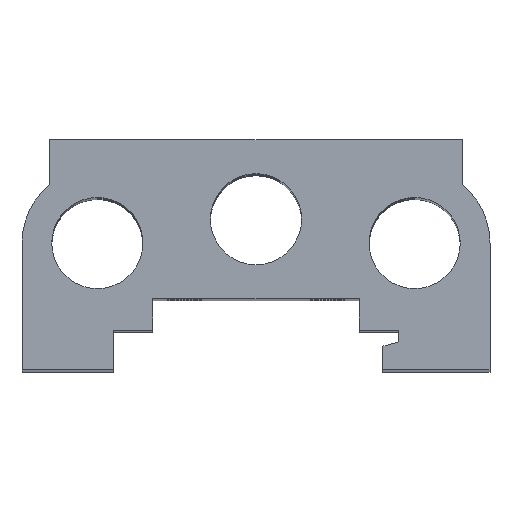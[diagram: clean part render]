
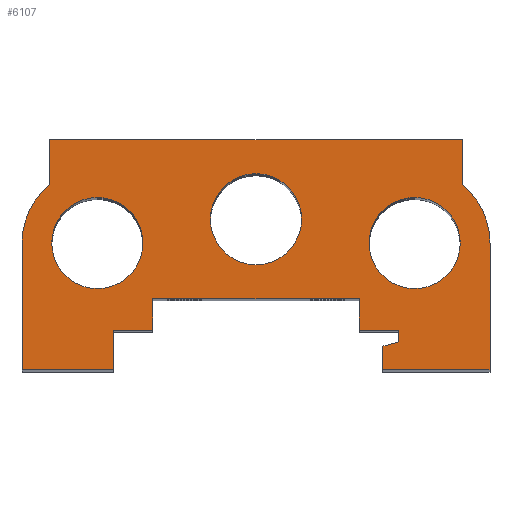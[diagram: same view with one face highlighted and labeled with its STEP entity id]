
A CAD part, top view. The second image highlights one B-rep face of the part: STEP entity #6107.
In plain terms, the highlighted planar face has unit normal (0, 0, 1).
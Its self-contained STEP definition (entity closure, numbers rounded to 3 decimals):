
#5183=CARTESIAN_POINT('',(25.75,16.0,154.0));
#5184=VERTEX_POINT('',#5183);
#5185=CARTESIAN_POINT('',(20.0,16.0,154.0));
#5186=DIRECTION('',(0.0,0.0,-1.0));
#5187=DIRECTION('',(-1.0,0.0,0.0));
#5188=AXIS2_PLACEMENT_3D('',#5185,#5186,#5187);
#5189=CIRCLE('',#5188,5.75);
#5190=EDGE_CURVE('',#5184,#5184,#5189,.T.);
#5231=CARTESIAN_POINT('',(5.75,19.0,154.0));
#5232=VERTEX_POINT('',#5231);
#5233=CARTESIAN_POINT('',(0.0,19.0,154.0));
#5234=DIRECTION('',(0.0,0.0,-1.0));
#5235=DIRECTION('',(-1.0,0.0,0.0));
#5236=AXIS2_PLACEMENT_3D('',#5233,#5234,#5235);
#5237=CIRCLE('',#5236,5.75);
#5238=EDGE_CURVE('',#5232,#5232,#5237,.T.);
#5274=CARTESIAN_POINT('',(-14.25,16.0,154.0));
#5275=VERTEX_POINT('',#5274);
#5276=CARTESIAN_POINT('',(-20.0,16.0,154.0));
#5277=DIRECTION('',(0.0,0.0,-1.0));
#5278=DIRECTION('',(-1.0,0.0,0.0));
#5279=AXIS2_PLACEMENT_3D('',#5276,#5277,#5278);
#5280=CIRCLE('',#5279,5.75);
#5281=EDGE_CURVE('',#5275,#5275,#5280,.T.);
#5322=CARTESIAN_POINT('',(-29.5,16.,154.0));
#5323=VERTEX_POINT('',#5322);
#5324=CARTESIAN_POINT('',(-26.,23.365,154.0));
#5325=VERTEX_POINT('',#5324);
#5326=CARTESIAN_POINT('',(-20.0,16.0,154.0));
#5327=DIRECTION('',(0.0,0.0,-1.0));
#5328=DIRECTION('',(-0.632,0.775,0.0));
#5329=AXIS2_PLACEMENT_3D('',#5326,#5327,#5328);
#5330=CIRCLE('',#5329,9.5);
#5331=EDGE_CURVE('',#5323,#5325,#5330,.T.);
#5364=CARTESIAN_POINT('',(-26.,29.,154.0));
#5365=VERTEX_POINT('',#5364);
#5366=CARTESIAN_POINT('',(-26.,23.365,154.0));
#5367=DIRECTION('',(0.0,1.0,0.0));
#5368=VECTOR('',#5367,5.635);
#5369=LINE('',#5366,#5368);
#5370=EDGE_CURVE('',#5325,#5365,#5369,.T.);
#5395=CARTESIAN_POINT('',(26.,29.,154.0));
#5396=VERTEX_POINT('',#5395);
#5397=CARTESIAN_POINT('',(-26.,29.,154.0));
#5398=DIRECTION('',(1.0,0.0,0.0));
#5399=VECTOR('',#5398,52.);
#5400=LINE('',#5397,#5399);
#5401=EDGE_CURVE('',#5365,#5396,#5400,.T.);
#5543=CARTESIAN_POINT('',(26.0,23.365,154.0));
#5544=VERTEX_POINT('',#5543);
#5545=CARTESIAN_POINT('',(26.,29.,154.0));
#5546=DIRECTION('',(0.0,-1.0,0.0));
#5547=VECTOR('',#5546,5.635);
#5548=LINE('',#5545,#5547);
#5549=EDGE_CURVE('',#5396,#5544,#5548,.T.);
#5574=CARTESIAN_POINT('',(29.5,16.0,154.0));
#5575=VERTEX_POINT('',#5574);
#5576=CARTESIAN_POINT('',(20.0,16.0,154.0));
#5577=DIRECTION('',(0.0,0.0,-1.0));
#5578=DIRECTION('',(1.0,0.0,0.0));
#5579=AXIS2_PLACEMENT_3D('',#5576,#5577,#5578);
#5580=CIRCLE('',#5579,9.5);
#5581=EDGE_CURVE('',#5544,#5575,#5580,.T.);
#5607=CARTESIAN_POINT('',(29.5,0.0,154.0));
#5608=VERTEX_POINT('',#5607);
#5609=CARTESIAN_POINT('',(29.5,16.0,154.0));
#5610=DIRECTION('',(0.0,-1.0,0.0));
#5611=VECTOR('',#5610,16.0);
#5612=LINE('',#5609,#5611);
#5613=EDGE_CURVE('',#5575,#5608,#5612,.T.);
#5638=CARTESIAN_POINT('',(16.,0.0,154.0));
#5639=VERTEX_POINT('',#5638);
#5640=CARTESIAN_POINT('',(29.5,0.0,154.0));
#5641=DIRECTION('',(-1.0,0.0,0.0));
#5642=VECTOR('',#5641,13.5);
#5643=LINE('',#5640,#5642);
#5644=EDGE_CURVE('',#5608,#5639,#5643,.T.);
#5669=CARTESIAN_POINT('',(16.,3.,154.0));
#5670=VERTEX_POINT('',#5669);
#5671=CARTESIAN_POINT('',(16.,0.0,154.0));
#5672=DIRECTION('',(0.0,1.0,0.0));
#5673=VECTOR('',#5672,3.);
#5674=LINE('',#5671,#5673);
#5675=EDGE_CURVE('',#5639,#5670,#5674,.T.);
#5700=CARTESIAN_POINT('',(18.0,3.536,154.0));
#5701=VERTEX_POINT('',#5700);
#5702=CARTESIAN_POINT('',(16.,3.,154.0));
#5703=DIRECTION('',(0.966,0.259,0.0));
#5704=VECTOR('',#5703,2.071);
#5705=LINE('',#5702,#5704);
#5706=EDGE_CURVE('',#5670,#5701,#5705,.T.);
#5731=CARTESIAN_POINT('',(18.,5.0,154.0));
#5732=VERTEX_POINT('',#5731);
#5733=CARTESIAN_POINT('',(18.0,3.536,154.0));
#5734=DIRECTION('',(0.0,1.0,0.0));
#5735=VECTOR('',#5734,1.464);
#5736=LINE('',#5733,#5735);
#5737=EDGE_CURVE('',#5701,#5732,#5736,.T.);
#5762=CARTESIAN_POINT('',(13.0,5.0,154.0));
#5763=VERTEX_POINT('',#5762);
#5764=CARTESIAN_POINT('',(18.,5.0,154.0));
#5765=DIRECTION('',(-1.0,0.0,0.0));
#5766=VECTOR('',#5765,5.);
#5767=LINE('',#5764,#5766);
#5768=EDGE_CURVE('',#5732,#5763,#5767,.T.);
#5793=CARTESIAN_POINT('',(13.0,9.0,154.0));
#5794=VERTEX_POINT('',#5793);
#5795=CARTESIAN_POINT('',(13.0,5.0,154.0));
#5796=DIRECTION('',(0.0,1.0,0.0));
#5797=VECTOR('',#5796,4.0);
#5798=LINE('',#5795,#5797);
#5799=EDGE_CURVE('',#5763,#5794,#5798,.T.);
#5824=CARTESIAN_POINT('',(-13.0,9.0,154.0));
#5825=VERTEX_POINT('',#5824);
#5826=CARTESIAN_POINT('',(13.0,9.0,154.0));
#5827=DIRECTION('',(-1.0,0.0,0.0));
#5828=VECTOR('',#5827,26.0);
#5829=LINE('',#5826,#5828);
#5830=EDGE_CURVE('',#5794,#5825,#5829,.T.);
#5897=CARTESIAN_POINT('',(-13.0,5.0,154.0));
#5898=VERTEX_POINT('',#5897);
#5899=CARTESIAN_POINT('',(-13.0,9.0,154.0));
#5900=DIRECTION('',(0.0,-1.0,0.0));
#5901=VECTOR('',#5900,4.0);
#5902=LINE('',#5899,#5901);
#5903=EDGE_CURVE('',#5825,#5898,#5902,.T.);
#5928=CARTESIAN_POINT('',(-18.0,5.0,154.0));
#5929=VERTEX_POINT('',#5928);
#5930=CARTESIAN_POINT('',(-13.0,5.0,154.0));
#5931=DIRECTION('',(-1.0,0.0,0.0));
#5932=VECTOR('',#5931,5.0);
#5933=LINE('',#5930,#5932);
#5934=EDGE_CURVE('',#5898,#5929,#5933,.T.);
#5959=CARTESIAN_POINT('',(-18.0,0.0,154.0));
#5960=VERTEX_POINT('',#5959);
#5961=CARTESIAN_POINT('',(-18.0,5.0,154.0));
#5962=DIRECTION('',(0.0,-1.0,0.0));
#5963=VECTOR('',#5962,5.0);
#5964=LINE('',#5961,#5963);
#5965=EDGE_CURVE('',#5929,#5960,#5964,.T.);
#5990=CARTESIAN_POINT('',(-29.5,0.0,154.0));
#5991=VERTEX_POINT('',#5990);
#5992=CARTESIAN_POINT('',(-18.0,0.0,154.0));
#5993=DIRECTION('',(-1.0,0.0,0.0));
#5994=VECTOR('',#5993,11.5);
#5995=LINE('',#5992,#5994);
#5996=EDGE_CURVE('',#5960,#5991,#5995,.T.);
#6021=CARTESIAN_POINT('',(-29.5,0.0,154.0));
#6022=DIRECTION('',(0.0,1.0,0.0));
#6023=VECTOR('',#6022,16.);
#6024=LINE('',#6021,#6023);
#6025=EDGE_CURVE('',#5991,#5323,#6024,.T.);
#6073=CARTESIAN_POINT('',(0.278,14.351,154.0));
#6074=DIRECTION('',(0.0,0.0,1.0));
#6075=DIRECTION('',(1.0,0.0,0.0));
#6076=AXIS2_PLACEMENT_3D('',#6073,#6074,#6075);
#6077=PLANE('',#6076);
#6078=ORIENTED_EDGE('',*,*,#5331,.F.);
#6079=ORIENTED_EDGE('',*,*,#6025,.F.);
#6080=ORIENTED_EDGE('',*,*,#5996,.F.);
#6081=ORIENTED_EDGE('',*,*,#5965,.F.);
#6082=ORIENTED_EDGE('',*,*,#5934,.F.);
#6083=ORIENTED_EDGE('',*,*,#5903,.F.);
#6084=ORIENTED_EDGE('',*,*,#5830,.F.);
#6085=ORIENTED_EDGE('',*,*,#5799,.F.);
#6086=ORIENTED_EDGE('',*,*,#5768,.F.);
#6087=ORIENTED_EDGE('',*,*,#5737,.F.);
#6088=ORIENTED_EDGE('',*,*,#5706,.F.);
#6089=ORIENTED_EDGE('',*,*,#5675,.F.);
#6090=ORIENTED_EDGE('',*,*,#5644,.F.);
#6091=ORIENTED_EDGE('',*,*,#5613,.F.);
#6092=ORIENTED_EDGE('',*,*,#5581,.F.);
#6093=ORIENTED_EDGE('',*,*,#5549,.F.);
#6094=ORIENTED_EDGE('',*,*,#5401,.F.);
#6095=ORIENTED_EDGE('',*,*,#5370,.F.);
#6096=EDGE_LOOP('',(#6078,#6079,#6080,#6081,#6082,#6083,#6084,#6085,#6086,#6087,#6088,#6089,#6090,#6091,#6092,#6093,#6094,#6095));
#6097=FACE_OUTER_BOUND('',#6096,.T.);
#6098=ORIENTED_EDGE('',*,*,#5190,.T.);
#6099=EDGE_LOOP('',(#6098));
#6100=FACE_BOUND('',#6099,.T.);
#6101=ORIENTED_EDGE('',*,*,#5238,.T.);
#6102=EDGE_LOOP('',(#6101));
#6103=FACE_BOUND('',#6102,.T.);
#6104=ORIENTED_EDGE('',*,*,#5281,.T.);
#6105=EDGE_LOOP('',(#6104));
#6106=FACE_BOUND('',#6105,.T.);
#6107=ADVANCED_FACE('',(#6097,#6100,#6103,#6106),#6077,.T.);
